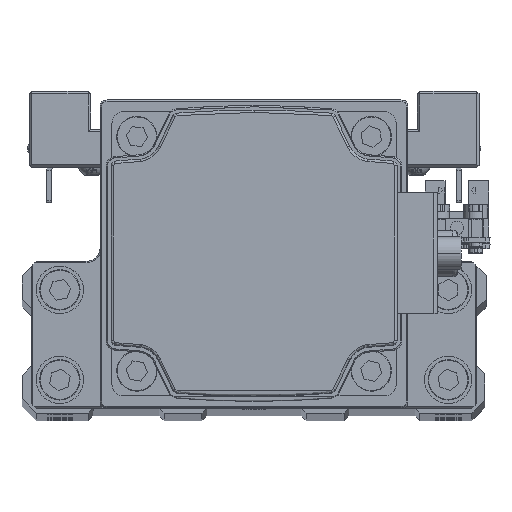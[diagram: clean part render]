
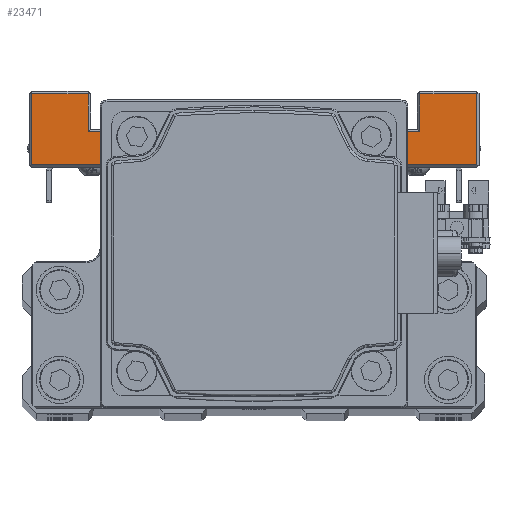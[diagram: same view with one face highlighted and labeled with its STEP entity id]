
A CAD part, top view. The second image highlights one B-rep face of the part: STEP entity #23471.
In plain terms, the highlighted planar face has unit normal (0, 0, 1) as drawn and (1, 0, 0) by its records, which use the part's own axes.
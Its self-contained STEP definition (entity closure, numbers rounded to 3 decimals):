
#303 = VERTEX_POINT ( 'NONE', #12355 ) ;
#720 = LINE ( 'NONE', #13999, #34917 ) ;
#1130 = EDGE_CURVE ( 'NONE', #5143, #39479, #23328, .T. ) ;
#1273 = VECTOR ( 'NONE', #40103, 1000. ) ;
#2223 = DIRECTION ( 'NONE',  ( 0., 0., 1. ) ) ;
#2748 = DIRECTION ( 'NONE',  ( -1., 0., 0. ) ) ;
#2981 = ORIENTED_EDGE ( 'NONE', *, *, #3360, .T. ) ;
#3360 = EDGE_CURVE ( 'NONE', #303, #30116, #39403, .T. ) ;
#4289 = CARTESIAN_POINT ( 'NONE',  ( 47., 8., 20. ) ) ;
#4942 = VECTOR ( 'NONE', #2223, 1000. ) ;
#4985 = LINE ( 'NONE', #18246, #37138 ) ;
#5143 = VERTEX_POINT ( 'NONE', #11169 ) ;
#5188 = DIRECTION ( 'NONE',  ( 0., -1., 0. ) ) ;
#5567 = VECTOR ( 'NONE', #5188, 1000. ) ;
#6071 = CARTESIAN_POINT ( 'NONE',  ( 47., 23., 47. ) ) ;
#6317 = CARTESIAN_POINT ( 'NONE',  ( 47., 8., 47. ) ) ;
#6795 = DIRECTION ( 'NONE',  ( 0., -1., 0. ) ) ;
#6976 = CARTESIAN_POINT ( 'NONE',  ( 47., 8., -47. ) ) ;
#7361 = DIRECTION ( 'NONE',  ( 0., 0., -1. ) ) ;
#7699 = CARTESIAN_POINT ( 'NONE',  ( 47., 7.5, -47. ) ) ;
#8832 = ORIENTED_EDGE ( 'NONE', *, *, #31896, .T. ) ;
#9554 = CARTESIAN_POINT ( 'NONE',  ( 47., 23., -20. ) ) ;
#10182 = DIRECTION ( 'NONE',  ( 0., 1., 0. ) ) ;
#10319 = CARTESIAN_POINT ( 'NONE',  ( 47., 7.5, -35. ) ) ;
#10356 = CARTESIAN_POINT ( 'NONE',  ( 47., 8., -47. ) ) ;
#10732 = AXIS2_PLACEMENT_3D ( 'NONE', #32570, #2748, #16028 ) ;
#10940 = ORIENTED_EDGE ( 'NONE', *, *, #16076, .T. ) ;
#11169 = CARTESIAN_POINT ( 'NONE',  ( 47., 8., -20. ) ) ;
#12355 = CARTESIAN_POINT ( 'NONE',  ( 47., 23., -47. ) ) ;
#12586 = CARTESIAN_POINT ( 'NONE',  ( 47., -7.5, 20. ) ) ;
#12659 = ORIENTED_EDGE ( 'NONE', *, *, #21591, .T. ) ;
#12733 = ORIENTED_EDGE ( 'NONE', *, *, #1130, .F. ) ;
#12980 = ORIENTED_EDGE ( 'NONE', *, *, #14068, .T. ) ;
#13001 = VECTOR ( 'NONE', #22837, 1000. ) ;
#13438 = ORIENTED_EDGE ( 'NONE', *, *, #16852, .T. ) ;
#13510 = LINE ( 'NONE', #26782, #1273 ) ;
#13596 = EDGE_CURVE ( 'NONE', #34227, #34023, #26711, .T. ) ;
#13999 = CARTESIAN_POINT ( 'NONE',  ( 47., 8., 20. ) ) ;
#14068 = EDGE_CURVE ( 'NONE', #5143, #26296, #40207, .T. ) ;
#15038 = VERTEX_POINT ( 'NONE', #12586 ) ;
#15294 = VERTEX_POINT ( 'NONE', #34298 ) ;
#16028 = DIRECTION ( 'NONE',  ( 0., 0., 1. ) ) ;
#16076 = EDGE_CURVE ( 'NONE', #37391, #41191, #13510, .T. ) ;
#16612 = VECTOR ( 'NONE', #23598, 1000. ) ;
#16852 = EDGE_CURVE ( 'NONE', #30116, #15294, #40171, .T. ) ;
#16947 = VECTOR ( 'NONE', #7361, 1000. ) ;
#18246 = CARTESIAN_POINT ( 'NONE',  ( 47., 15., -20. ) ) ;
#18769 = LINE ( 'NONE', #32051, #4942 ) ;
#19282 = PLANE ( 'NONE',  #10732 ) ;
#19961 = EDGE_CURVE ( 'NONE', #41191, #42976, #720, .T. ) ;
#20966 = DIRECTION ( 'NONE',  ( 0., 1., 0. ) ) ;
#21501 = EDGE_CURVE ( 'NONE', #15038, #39479, #23893, .T. ) ;
#21591 = EDGE_CURVE ( 'NONE', #15294, #34227, #4985, .T. ) ;
#21741 = LINE ( 'NONE', #35007, #5567 ) ;
#22837 = DIRECTION ( 'NONE',  ( 0., 0., 1. ) ) ;
#23069 = ORIENTED_EDGE ( 'NONE', *, *, #21501, .T. ) ;
#23328 = LINE ( 'NONE', #36629, #27519 ) ;
#23471 = ADVANCED_FACE ( 'NONE', ( #39124 ), #19282, .F. ) ;
#23598 = DIRECTION ( 'NONE',  ( 0., -1., 0. ) ) ;
#23638 = DIRECTION ( 'NONE',  ( 0., 0., -1. ) ) ;
#23893 = LINE ( 'NONE', #37196, #16947 ) ;
#23948 = VECTOR ( 'NONE', #10182, 1000. ) ;
#24468 = CARTESIAN_POINT ( 'NONE',  ( 47., 23., -35. ) ) ;
#25788 = CARTESIAN_POINT ( 'NONE',  ( 47., -7.5, -20. ) ) ;
#26296 = VERTEX_POINT ( 'NONE', #6976 ) ;
#26711 = LINE ( 'NONE', #40035, #23948 ) ;
#26782 = CARTESIAN_POINT ( 'NONE',  ( 47., 7.5, 47. ) ) ;
#27267 = DIRECTION ( 'NONE',  ( 0., 0., -1. ) ) ;
#27519 = VECTOR ( 'NONE', #6795, 1000. ) ;
#29713 = CARTESIAN_POINT ( 'NONE',  ( 47., 15., 35. ) ) ;
#30116 = VERTEX_POINT ( 'NONE', #24468 ) ;
#31522 = DIRECTION ( 'NONE',  ( 0., 0., 1. ) ) ;
#31896 = EDGE_CURVE ( 'NONE', #34023, #37391, #18769, .T. ) ;
#32051 = CARTESIAN_POINT ( 'NONE',  ( 47., 23., -20. ) ) ;
#32570 = CARTESIAN_POINT ( 'NONE',  ( 47., 7.5, -20. ) ) ;
#33470 = EDGE_LOOP ( 'NONE', ( #12733, #12980, #39186, #2981, #13438, #12659, #34211, #8832, #10940, #34252, #42466, #23069 ) ) ;
#34023 = VERTEX_POINT ( 'NONE', #34745 ) ;
#34211 = ORIENTED_EDGE ( 'NONE', *, *, #13596, .T. ) ;
#34227 = VERTEX_POINT ( 'NONE', #29713 ) ;
#34252 = ORIENTED_EDGE ( 'NONE', *, *, #19961, .T. ) ;
#34298 = CARTESIAN_POINT ( 'NONE',  ( 47., 15., -35. ) ) ;
#34745 = CARTESIAN_POINT ( 'NONE',  ( 47., 23., 35. ) ) ;
#34917 = VECTOR ( 'NONE', #27267, 1000. ) ;
#35007 = CARTESIAN_POINT ( 'NONE',  ( 47., 7.5, 20. ) ) ;
#35125 = VECTOR ( 'NONE', #23638, 1000. ) ;
#36629 = CARTESIAN_POINT ( 'NONE',  ( 47., 7.5, -20. ) ) ;
#37138 = VECTOR ( 'NONE', #31522, 1000. ) ;
#37196 = CARTESIAN_POINT ( 'NONE',  ( 47., -7.5, -20. ) ) ;
#37391 = VERTEX_POINT ( 'NONE', #6071 ) ;
#37540 = LINE ( 'NONE', #7699, #42461 ) ;
#39124 = FACE_OUTER_BOUND ( 'NONE', #33470, .T. ) ;
#39186 = ORIENTED_EDGE ( 'NONE', *, *, #40905, .T. ) ;
#39403 = LINE ( 'NONE', #9554, #13001 ) ;
#39479 = VERTEX_POINT ( 'NONE', #25788 ) ;
#40035 = CARTESIAN_POINT ( 'NONE',  ( 47., 7.5, 35. ) ) ;
#40103 = DIRECTION ( 'NONE',  ( 0., -1., 0. ) ) ;
#40171 = LINE ( 'NONE', #10319, #16612 ) ;
#40207 = LINE ( 'NONE', #10356, #35125 ) ;
#40905 = EDGE_CURVE ( 'NONE', #26296, #303, #37540, .T. ) ;
#41191 = VERTEX_POINT ( 'NONE', #6317 ) ;
#42461 = VECTOR ( 'NONE', #20966, 1000. ) ;
#42466 = ORIENTED_EDGE ( 'NONE', *, *, #42707, .T. ) ;
#42707 = EDGE_CURVE ( 'NONE', #42976, #15038, #21741, .T. ) ;
#42976 = VERTEX_POINT ( 'NONE', #4289 ) ;
